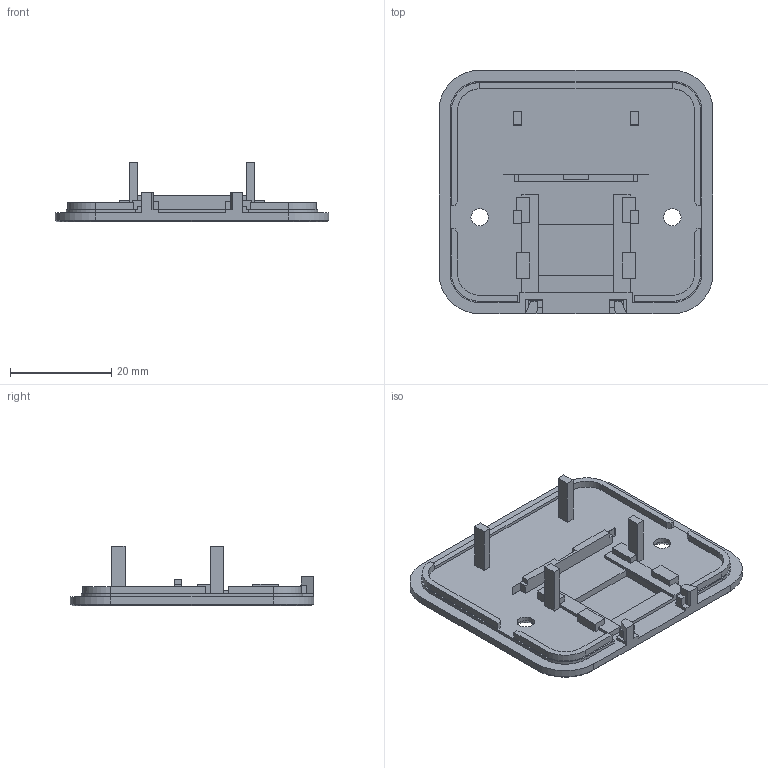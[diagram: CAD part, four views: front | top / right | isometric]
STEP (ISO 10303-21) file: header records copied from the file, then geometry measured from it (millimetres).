
FILE_DESCRIPTION(('Open CASCADE Model'),'2;1');
FILE_NAME('Open CASCADE Shape Model','2026-10-07T16:40:46',('Author'),( 'Open CASCADE'),'Open CASCADE STEP processor 7.9','Open CASCADE 7.9' ,'Unknown');
FILE_SCHEMA(('AUTOMOTIVE_DESIGN { 1 0 10303 214 1 1 1 1 }'));
Length unit declared in the file: millimetre
Products named in the file (1): Open CASCADE STEP translator 7.9 3
Bounding box: 54 x 48 x 11.8 mm (x, y, z)
Volume: 6158.7 mm3; surface area: 6570.1 mm2
Topology: 1 solids, 1 shells, 179 faces, 496 edges, 326 vertices
Faces by surface type: plane 151, cylinder 22, cone 6
Full cylindrical faces by diameter (mm): 3.4 x2
Entity records: 11824 total; most frequent: CARTESIAN_POINT 2394, DIRECTION 1572, LINE 1070, VECTOR 1070, ORIENTED_EDGE 992, PCURVE 992, DEFINITIONAL_REPRESENTATION 992, EDGE_CURVE 496
